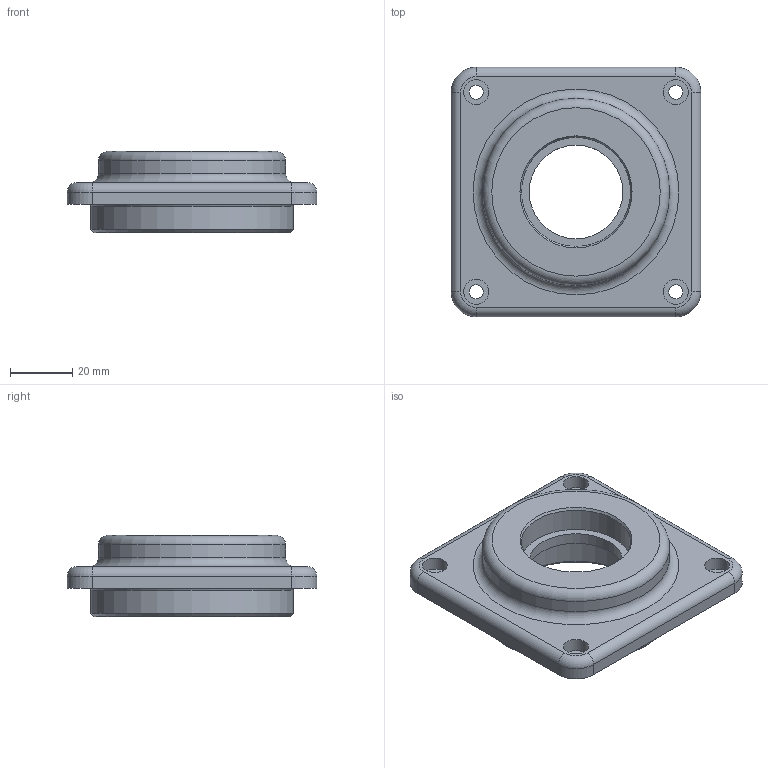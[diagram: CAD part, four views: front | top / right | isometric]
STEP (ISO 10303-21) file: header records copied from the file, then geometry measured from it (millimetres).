
FILE_DESCRIPTION(/* description */ (''),/* implementation_level */ '2;1');
FILE_NAME(/* name */ '',/* time_stamp */ '2024-08-02T13:15:42+09:00',/* author */ ('jhkim'),/* organization */ (''),/* preprocessor_version */ 'ST-DEVELOPER v20',/* originating_system */ 'Autodesk Inventor 2025',/* authorisation */ '');
FILE_SCHEMA (('AUTOMOTIVE_DESIGN { 1 0 10303 214 3 1 1 }'));
Length unit declared in the file: millimetre
Products named in the file (1): 메인커버
Bounding box: 80 x 80 x 26 mm (x, y, z)
Volume: 65864.6 mm3; surface area: 19744.5 mm2
Topology: 1 solids, 1 shells, 46 faces, 97 edges, 61 vertices
Faces by surface type: cylinder 21, plane 14, torus 8, cone 3
Full cylindrical faces by diameter (mm): 4.5 x4, 8 x4, 30 x1, 35 x1, 47 x1, 60 x1, 65 x1
Entity records: 1317 total; most frequent: DIRECTION 252, CARTESIAN_POINT 205, ORIENTED_EDGE 194, AXIS2_PLACEMENT_3D 108, EDGE_CURVE 97, EDGE_LOOP 64, CIRCLE 61, VERTEX_POINT 61
